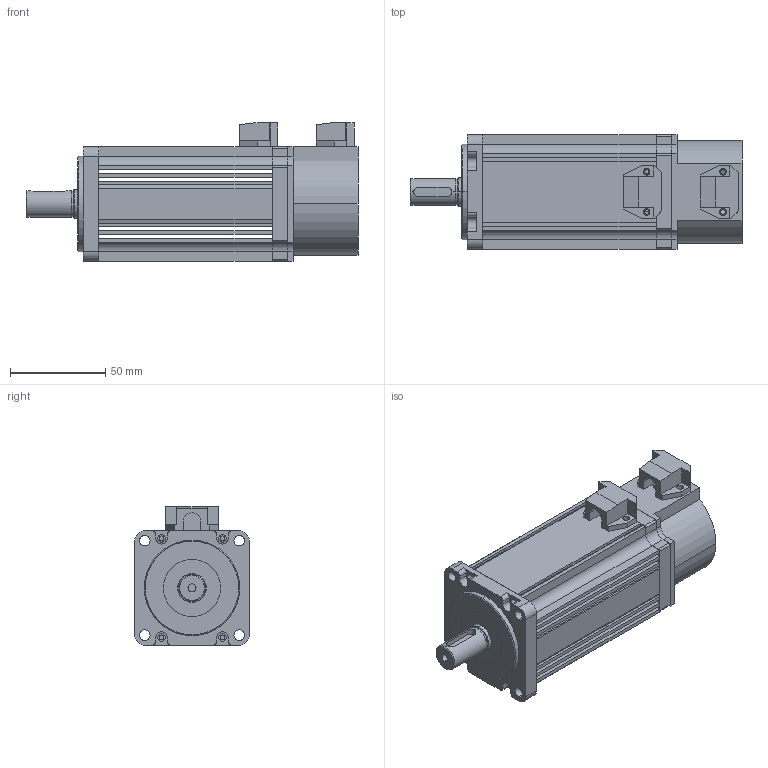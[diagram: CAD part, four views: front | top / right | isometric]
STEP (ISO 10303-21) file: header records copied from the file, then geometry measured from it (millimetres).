
FILE_DESCRIPTION (( 'STEP AP203' ), '1' );
FILE_NAME ('MS-60STE-M01330B-20P4.STEP', '2019-12-13T06:15:03', ( '' ), ( '' ), 'SwSTEP 2.0', 'SolidWorks 2016', '' );
FILE_SCHEMA (( 'CONFIG_CONTROL_DESIGN' ));
Length unit declared in the file: millimetre
Products named in the file (1): MS-60STE-M01330B-20P4
Bounding box: 174 x 60 x 72.5 mm (x, y, z)
Surface area: 56446.2 mm2 (no closed solid volume)
Topology: 0 solids, 9 shells, 278 faces, 853 edges, 587 vertices
Faces by surface type: plane 170, cylinder 98, cone 10
Entity records: 9975 total; most frequent: CARTESIAN_POINT 2109, DIRECTION 1660, ORIENTED_EDGE 1476, EDGE_CURVE 853, VECTOR 592, LINE 592, VERTEX_POINT 587, AXIS2_PLACEMENT_3D 534
